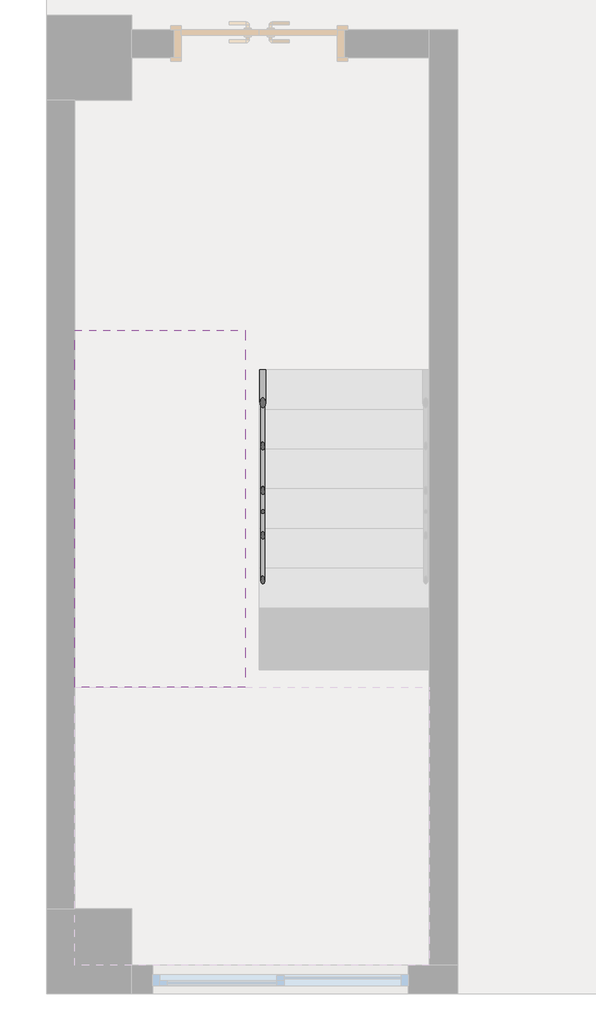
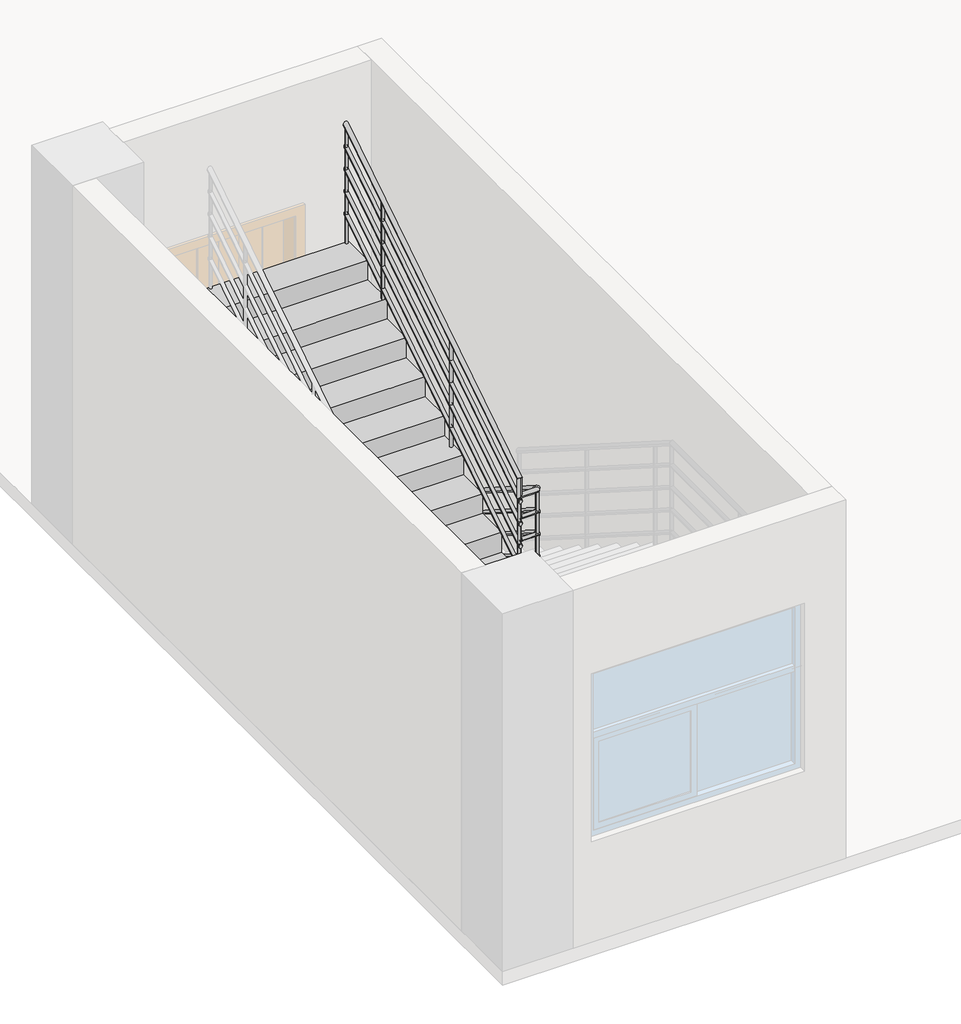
# One storey, part 3 of 4: 1 railing, 1 stair flight.
"""IFC4 building model written with IfcOpenShell, lengths in millimetres."""

from ifc_helpers import new_model, si_unit, point, frame, frame_2d, origin, place, context, project, spatial, circle_curve, ellipse_curve, trimmed, segment, composite_curve, outline, extrude, faceted_brep, element, save
from ifc_brep_helpers import plane_surface, cylinder_surface, advanced_brep

model = new_model("IFC4")

# Units and contexts
model_context = context("Model", 3, world=origin())
ifc_project = project(units=[si_unit("LENGTHUNIT", "METRE", prefix="MILLI")], contexts=[model_context])

# Site, building, storey
site = spatial("IfcSite", under=ifc_project)
building = spatial("IfcBuilding", under=site)
storey = spatial("IfcBuildingStorey", under=building, Name="标高 1", Elevation=0.0)

# Railing
placement = place(None, origin())
element("IfcRailing", 1, ObjectType="900mm 圆管", at=placement, inside=storey, context=model_context, shape_type="SolidModel", body=[
    advanced_brep(
    [(-11176.3675258, -4336.6725016, 1054.0870689), (-11136.3675258, -4336.6725016, 1054.0870689), (-11176.3675258, -6570.508408, 2472.395581), (-11136.3675258, -6604.2769206, 2493.8359064)],
    [
        (0, 1, ellipse_curve(frame((-11156.3675258, -4336.6725016, 1054.0870689), z_axis=(0.0, 1.0, 0.0), x_axis=(0.0, 0.0, -1.0)), 23.6907088, 20.0)),
        (1, 0, ellipse_curve(frame((-11156.3675258, -4336.6725016, 1054.0870689), z_axis=(0.0, 1.0, 0.0), x_axis=(0.0, 0.0, -1.0)), 23.6907088, 20.0)),
        (2, 3, ellipse_curve(frame((-11156.3675258, -6587.3926643, 2483.1157437), z_axis=(-0.7071067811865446, -0.5969486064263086, 0.3790149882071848), x_axis=(-0.7071067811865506, 0.596948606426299, -0.3790149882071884)), 28.2842712, 20.0)),
        (3, 2, ellipse_curve(frame((-11156.3675258, -6587.3926643, 2483.1157437), z_axis=(-0.7071067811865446, -0.5969486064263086, 0.3790149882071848), x_axis=(-0.7071067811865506, 0.596948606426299, -0.3790149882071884)), 28.2842712, 20.0)),
        (0, 2),
        (3, 1),
    ],
    [
        plane_surface(frame((-11156.3675258, -4336.6725016, 1077.7777778), z_axis=(0.0, 1.0, 0.0), x_axis=(0.0, 0.0, -1.0))),
        plane_surface(frame((-11156.3675258, -6576.6725016, 2500.0), z_axis=(-0.7071067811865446, -0.5969486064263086, 0.3790149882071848), x_axis=(0.7071067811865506, -0.5969486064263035, 0.37901498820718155))),
        cylinder_surface(frame((-11156.3675258, -4347.3926643, 1060.8935215), z_axis=(0.0, 0.8442128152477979, -0.536008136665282), x_axis=(1.0, 0.0, 0.0)), 20.0),
    ],
    [
        (0, [[1, 2]]),
        (1, [[3, 4]]),
        (2, [[-1, 5, -4, 6]]),
        (2, [[-2, -6, -3, -5]]),
    ],
),
    advanced_brep(
    [(-11183.9719449, -6582.0725016, 2480.0), (-11150.2034323, -6622.0725016, 2480.0), (-11307.1675258, -6582.0725016, 2480.0), (-11307.1675258, -6622.0725016, 2480.0)],
    [
        (0, 1, ellipse_curve(frame((-11167.0876886, -6602.0725016, 2480.0), z_axis=(0.7071067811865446, 0.5969486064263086, -0.3790149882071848), x_axis=(0.7071067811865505, -0.5969486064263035, 0.3790149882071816)), 28.2842712, 20.0)),
        (1, 0, ellipse_curve(frame((-11167.0876886, -6602.0725016, 2480.0), z_axis=(0.7071067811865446, 0.5969486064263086, -0.3790149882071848), x_axis=(0.7071067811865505, -0.5969486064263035, 0.3790149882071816)), 28.2842712, 20.0)),
        (2, 3, ellipse_curve(frame((-11307.1675258, -6602.0725016, 2480.0), z_axis=(-0.7071067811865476, 0.0, 0.7071067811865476), x_axis=(0.7071067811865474, 0.0, 0.7071067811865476)), 28.2842712, 20.0)),
        (3, 2, ellipse_curve(frame((-11307.1675258, -6602.0725016, 2480.0), z_axis=(-0.7071067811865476, 0.0, 0.7071067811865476), x_axis=(0.7071067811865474, 0.0, 0.7071067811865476)), 28.2842712, 20.0)),
        (0, 2),
        (3, 1),
    ],
    [
        plane_surface(frame((-11156.3675258, -6602.0725016, 2500.0), z_axis=(0.7071067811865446, 0.5969486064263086, -0.3790149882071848), x_axis=(0.7071067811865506, -0.5969486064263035, 0.37901498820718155))),
        plane_surface(frame((-11287.1675258, -6602.0725016, 2500.0), z_axis=(-0.7071067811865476, 0.0, 0.7071067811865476), x_axis=(0.7071067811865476, 0.0, 0.7071067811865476))),
        cylinder_surface(frame((-11156.3675258, -6602.0725016, 2480.0), z_axis=(1.0, 0.0, 0.0), x_axis=(0.0, -1.0, 0.0)), 20.0),
    ],
    [
        (0, [[1, 2]]),
        (1, [[3, 4]]),
        (2, [[-1, 5, -4, 6]]),
        (2, [[-2, -6, -3, -5]]),
    ],
),
    advanced_brep(
    [(-11307.1675258, -6582.0725016, 2480.0), (-11307.1675258, -6622.0725016, 2480.0), (-11307.1675258, -6582.0725016, 2626.9677887), (-11307.1675258, -6622.0725016, 2648.952381)],
    [
        (0, 1, ellipse_curve(frame((-11307.1675258, -6602.0725016, 2480.0), z_axis=(0.7071067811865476, 0.0, -0.7071067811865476), x_axis=(-0.7071067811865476, 0.0, -0.7071067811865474)), 28.2842712, 20.0)),
        (1, 0, ellipse_curve(frame((-11307.1675258, -6602.0725016, 2480.0), z_axis=(0.7071067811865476, 0.0, -0.7071067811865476), x_axis=(-0.7071067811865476, 0.0, -0.7071067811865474)), 28.2842712, 20.0)),
        (2, 3, ellipse_curve(frame((-11307.1675258, -6602.0725016, 2637.9600848), z_axis=(0.0, 0.4816595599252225, 0.8763584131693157), x_axis=(0.0, 0.876358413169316, -0.4816595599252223)), 22.8217128, 20.0)),
        (3, 2, ellipse_curve(frame((-11307.1675258, -6602.0725016, 2637.9600848), z_axis=(0.0, 0.4816595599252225, 0.8763584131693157), x_axis=(0.0, 0.876358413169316, -0.4816595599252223)), 22.8217128, 20.0)),
        (0, 2),
        (3, 1),
    ],
    [
        plane_surface(frame((-11307.1675258, -6602.0725016, 2480.0), z_axis=(0.7071067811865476, 0.0, -0.7071067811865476), x_axis=(0.7071067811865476, 0.0, 0.7071067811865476))),
        plane_surface(frame((-11307.1675258, -6602.0725016, 2637.9600848), z_axis=(0.0, 0.4816595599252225, 0.8763584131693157), x_axis=(1.0, 0.0, 0.0))),
        cylinder_surface(frame((-11307.1675258, -6602.0725016, 2480.0), z_axis=(0.0, 0.0, -1.0), x_axis=(0.0, -1.0, 0.0)), 20.0),
    ],
    [
        (0, [[1, 2]]),
        (1, [[3, 4]]),
        (2, [[-1, 5, -4, 6]]),
        (2, [[-2, -6, -3, -5]]),
    ],
),
    advanced_brep(
    [(-11287.1675258, -6602.0725016, 2637.9600848), (-11327.1675258, -6602.0725016, 2637.9600848), (-11287.1675258, -4056.6725016, 4254.0870689), (-11327.1675258, -4056.6725016, 4254.0870689)],
    [
        (0, 1, ellipse_curve(frame((-11307.1675258, -6602.0725016, 2637.9600848), z_axis=(0.0, -0.4816595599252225, -0.8763584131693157), x_axis=(0.0, -0.8763584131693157, 0.4816595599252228)), 22.8217128, 20.0)),
        (1, 0, ellipse_curve(frame((-11307.1675258, -6602.0725016, 2637.9600848), z_axis=(0.0, -0.4816595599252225, -0.8763584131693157), x_axis=(0.0, -0.8763584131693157, 0.4816595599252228)), 22.8217128, 20.0)),
        (2, 3, ellipse_curve(frame((-11307.1675258, -4056.6725016, 4254.0870689), z_axis=(0.0, 1.0, 0.0), x_axis=(0.0, 0.0, -1.0)), 23.6907088, 20.0)),
        (3, 2, ellipse_curve(frame((-11307.1675258, -4056.6725016, 4254.0870689), z_axis=(0.0, 1.0, 0.0), x_axis=(0.0, 0.0, -1.0)), 23.6907088, 20.0)),
        (0, 2),
        (3, 1),
    ],
    [
        plane_surface(frame((-11307.1675258, -6622.0725016, 2648.952381), z_axis=(0.0, -0.4816595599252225, -0.8763584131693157), x_axis=(1.0, 0.0, 0.0))),
        plane_surface(frame((-11307.1675258, -4056.6725016, 4277.7777778), z_axis=(0.0, 1.0, 0.0), x_axis=(0.0, 0.0, 1.0))),
        cylinder_surface(frame((-11307.1675258, -6611.3523389, 2632.0681246), z_axis=(0.0, -0.8442128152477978, -0.536008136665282), x_axis=(-1.0, 0.0, 0.0)), 20.0),
    ],
    [
        (0, [[1, 2]]),
        (1, [[3, 4]]),
        (2, [[-1, 5, -4, 6]]),
        (2, [[-2, -6, -3, -5]]),
    ],
),
    advanced_brep(
    [(-11141.3675258, -4336.6725016, 860.0097462), (-11171.3675258, -4336.6725016, 860.0097462), (-11141.3675258, -6581.0321514, 2285.0), (-11171.3675258, -6581.0321514, 2285.0), (-11141.3675258, -6587.0725016, 2285.0), (-11171.3675258, -6587.0725016, 2285.0)],
    [
        (0, 1, ellipse_curve(frame((-11156.3675258, -4336.6725016, 860.0097462), z_axis=(0.0, 1.0, 0.0), x_axis=(0.0, 0.0, -1.0)), 17.7680316, 15.0)),
        (1, 0, ellipse_curve(frame((-11156.3675258, -4336.6725016, 860.0097462), z_axis=(0.0, 1.0, 0.0), x_axis=(0.0, 0.0, -1.0)), 17.7680316, 15.0)),
        (0, 2),
        (2, 3, ellipse_curve(frame((-11156.3675258, -6581.0321514, 2285.0), z_axis=(0.0, 0.9602637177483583, -0.2790942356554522), x_axis=(0.0, -0.27909423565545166, -0.9602637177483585)), 15.6207089, 15.0)),
        (3, 1),
        (3, 2, ellipse_curve(frame((-11156.3675258, -6581.0321514, 2285.0), z_axis=(0.0, 0.9602637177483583, -0.2790942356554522), x_axis=(0.0, -0.27909423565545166, -0.9602637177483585)), 15.6207089, 15.0)),
        (4, 5, circle_curve(frame((-11156.3675258, -6587.0725016, 2285.0), z_axis=(0.0, -1.0, 0.0), x_axis=(-1.0, 0.0, 0.0)), 15.0)),
        (5, 4, circle_curve(frame((-11156.3675258, -6587.0725016, 2285.0), z_axis=(0.0, -1.0, 0.0), x_axis=(-1.0, 0.0, 0.0)), 15.0)),
        (2, 4),
        (5, 3),
    ],
    [
        plane_surface(frame((-11156.3675258, -4336.6725016, 877.7777778), z_axis=(0.0, 1.0, 0.0), x_axis=(0.0, 0.0, -1.0))),
        cylinder_surface(frame((-11156.3675258, -4344.7126237, 865.1145855), z_axis=(0.0, 0.8442128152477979, -0.536008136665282), x_axis=(-1.0, 0.0, 0.0)), 15.0),
        plane_surface(frame((-11156.3675258, -6587.0725016, 2300.0), z_axis=(0.0, -1.0, 0.0), x_axis=(0.0, 0.0, -1.0))),
        cylinder_surface(frame((-11156.3675258, -6576.6725016, 2285.0), z_axis=(0.0, 1.0, 0.0), x_axis=(-1.0, 0.0, 0.0)), 15.0),
    ],
    [
        (0, [[1, 2]]),
        (1, [[-1, 3, 4, 5]]),
        (1, [[-2, -5, 6, -3]]),
        (2, [[7, 8]]),
        (3, [[-4, 9, -8, 10]]),
        (3, [[-6, -10, -7, -9]]),
    ],
),
    advanced_brep(
    [(-11141.3675258, -6617.0725016, 2285.0), (-11141.3675258, -6587.0725016, 2285.0), (-11292.1675258, -6617.0725016, 2285.0), (-11292.1675258, -6587.0725016, 2285.0)],
    [
        (0, 1, circle_curve(frame((-11141.3675258, -6602.0725016, 2285.0), z_axis=(1.0, 0.0, 0.0), x_axis=(0.0, 1.0, 0.0)), 15.0)),
        (1, 0, circle_curve(frame((-11141.3675258, -6602.0725016, 2285.0), z_axis=(1.0, 0.0, 0.0), x_axis=(0.0, 1.0, 0.0)), 15.0)),
        (2, 3, circle_curve(frame((-11292.1675258, -6602.0725016, 2285.0), z_axis=(-1.0, 0.0, 0.0), x_axis=(0.0, 1.0, 0.0)), 15.0)),
        (3, 2, circle_curve(frame((-11292.1675258, -6602.0725016, 2285.0), z_axis=(-1.0, 0.0, 0.0), x_axis=(0.0, 1.0, 0.0)), 15.0)),
        (0, 2),
        (3, 1),
    ],
    [
        plane_surface(frame((-11141.3675258, -6602.0725016, 2300.0), z_axis=(1.0, 0.0, 0.0), x_axis=(0.0, -1.0, 0.0))),
        plane_surface(frame((-11292.1675258, -6602.0725016, 2300.0), z_axis=(-1.0, 0.0, 0.0), x_axis=(0.0, -1.0, 0.0))),
        cylinder_surface(frame((-11141.3675258, -6602.0725016, 2285.0), z_axis=(1.0, 0.0, 0.0), x_axis=(0.0, 1.0, 0.0)), 15.0),
    ],
    [
        (0, [[1, 2]]),
        (1, [[3, 4]]),
        (2, [[-1, 5, -4, 6]]),
        (2, [[-2, -6, -3, -5]]),
    ],
),
    advanced_brep(
    [(-11322.1675258, -6617.0725016, 2434.3589525), (-11292.1675258, -6617.0725016, 2434.3589525), (-11322.1675258, -4056.6725016, 4060.0097462), (-11292.1675258, -4056.6725016, 4060.0097462)],
    [
        (0, 1, ellipse_curve(frame((-11307.1675258, -6617.0725016, 2434.3589525), z_axis=(0.0, -1.0, 0.0), x_axis=(0.0, 0.0, -1.0)), 17.7680316, 15.0)),
        (1, 0, ellipse_curve(frame((-11307.1675258, -6617.0725016, 2434.3589525), z_axis=(0.0, -1.0, 0.0), x_axis=(0.0, 0.0, -1.0)), 17.7680316, 15.0)),
        (2, 3, ellipse_curve(frame((-11307.1675258, -4056.6725016, 4060.0097462), z_axis=(0.0, 1.0, 0.0), x_axis=(0.0, 0.0, -1.0)), 17.7680316, 15.0)),
        (3, 2, ellipse_curve(frame((-11307.1675258, -4056.6725016, 4060.0097462), z_axis=(0.0, 1.0, 0.0), x_axis=(0.0, 0.0, -1.0)), 17.7680316, 15.0)),
        (0, 2),
        (3, 1),
    ],
    [
        plane_surface(frame((-11307.1675258, -6617.0725016, 2452.1269841), z_axis=(0.0, -1.0, 0.0), x_axis=(0.0, 0.0, 1.0))),
        plane_surface(frame((-11307.1675258, -4056.6725016, 4077.7777778), z_axis=(0.0, 1.0, 0.0), x_axis=(0.0, 0.0, 1.0))),
        cylinder_surface(frame((-11307.1675258, -6609.0323796, 2439.4637919), z_axis=(0.0, -0.8442128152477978, -0.536008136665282), x_axis=(1.0, 0.0, 0.0)), 15.0),
    ],
    [
        (0, [[1, 2]]),
        (1, [[3, 4]]),
        (2, [[-1, 5, -4, 6]]),
        (2, [[-2, -6, -3, -5]]),
    ],
),
    advanced_brep(
    [(-11141.3675258, -4336.6725016, 660.0097462), (-11171.3675258, -4336.6725016, 660.0097462), (-11141.3675258, -6581.0321514, 2085.0), (-11171.3675258, -6581.0321514, 2085.0), (-11141.3675258, -6587.0725016, 2085.0), (-11171.3675258, -6587.0725016, 2085.0)],
    [
        (0, 1, ellipse_curve(frame((-11156.3675258, -4336.6725016, 660.0097462), z_axis=(0.0, 1.0, 0.0), x_axis=(0.0, 0.0, -1.0)), 17.7680316, 15.0)),
        (1, 0, ellipse_curve(frame((-11156.3675258, -4336.6725016, 660.0097462), z_axis=(0.0, 1.0, 0.0), x_axis=(0.0, 0.0, -1.0)), 17.7680316, 15.0)),
        (0, 2),
        (2, 3, ellipse_curve(frame((-11156.3675258, -6581.0321514, 2085.0), z_axis=(0.0, 0.9602637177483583, -0.2790942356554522), x_axis=(0.0, -0.27909423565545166, -0.9602637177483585)), 15.6207089, 15.0)),
        (3, 1),
        (3, 2, ellipse_curve(frame((-11156.3675258, -6581.0321514, 2085.0), z_axis=(0.0, 0.9602637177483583, -0.2790942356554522), x_axis=(0.0, -0.27909423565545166, -0.9602637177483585)), 15.6207089, 15.0)),
        (4, 5, circle_curve(frame((-11156.3675258, -6587.0725016, 2085.0), z_axis=(0.0, -1.0, 0.0), x_axis=(-1.0, 0.0, 0.0)), 15.0)),
        (5, 4, circle_curve(frame((-11156.3675258, -6587.0725016, 2085.0), z_axis=(0.0, -1.0, 0.0), x_axis=(-1.0, 0.0, 0.0)), 15.0)),
        (2, 4),
        (5, 3),
    ],
    [
        plane_surface(frame((-11156.3675258, -4336.6725016, 677.7777778), z_axis=(0.0, 1.0, 0.0), x_axis=(0.0, 0.0, -1.0))),
        cylinder_surface(frame((-11156.3675258, -4344.7126237, 665.1145855), z_axis=(0.0, 0.8442128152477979, -0.536008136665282), x_axis=(-1.0, 0.0, 0.0)), 15.0),
        plane_surface(frame((-11156.3675258, -6587.0725016, 2100.0), z_axis=(0.0, -1.0, 0.0), x_axis=(0.0, 0.0, -1.0))),
        cylinder_surface(frame((-11156.3675258, -6576.6725016, 2085.0), z_axis=(0.0, 1.0, 0.0), x_axis=(-1.0, 0.0, 0.0)), 15.0),
    ],
    [
        (0, [[1, 2]]),
        (1, [[-1, 3, 4, 5]]),
        (1, [[-2, -5, 6, -3]]),
        (2, [[7, 8]]),
        (3, [[-4, 9, -8, 10]]),
        (3, [[-6, -10, -7, -9]]),
    ],
),
    advanced_brep(
    [(-11141.3675258, -6617.0725016, 2085.0), (-11141.3675258, -6587.0725016, 2085.0), (-11292.1675258, -6617.0725016, 2085.0), (-11292.1675258, -6587.0725016, 2085.0)],
    [
        (0, 1, circle_curve(frame((-11141.3675258, -6602.0725016, 2085.0), z_axis=(1.0, 0.0, 0.0), x_axis=(0.0, 1.0, 0.0)), 15.0)),
        (1, 0, circle_curve(frame((-11141.3675258, -6602.0725016, 2085.0), z_axis=(1.0, 0.0, 0.0), x_axis=(0.0, 1.0, 0.0)), 15.0)),
        (2, 3, circle_curve(frame((-11292.1675258, -6602.0725016, 2085.0), z_axis=(-1.0, 0.0, 0.0), x_axis=(0.0, 1.0, 0.0)), 15.0)),
        (3, 2, circle_curve(frame((-11292.1675258, -6602.0725016, 2085.0), z_axis=(-1.0, 0.0, 0.0), x_axis=(0.0, 1.0, 0.0)), 15.0)),
        (0, 2),
        (3, 1),
    ],
    [
        plane_surface(frame((-11141.3675258, -6602.0725016, 2100.0), z_axis=(1.0, 0.0, 0.0), x_axis=(0.0, -1.0, 0.0))),
        plane_surface(frame((-11292.1675258, -6602.0725016, 2100.0), z_axis=(-1.0, 0.0, 0.0), x_axis=(0.0, -1.0, 0.0))),
        cylinder_surface(frame((-11141.3675258, -6602.0725016, 2085.0), z_axis=(1.0, 0.0, 0.0), x_axis=(0.0, 1.0, 0.0)), 15.0),
    ],
    [
        (0, [[1, 2]]),
        (1, [[3, 4]]),
        (2, [[-1, 5, -4, 6]]),
        (2, [[-2, -6, -3, -5]]),
    ],
),
    advanced_brep(
    [(-11322.1675258, -6617.0725016, 2234.3589525), (-11292.1675258, -6617.0725016, 2234.3589525), (-11322.1675258, -4056.6725016, 3860.0097462), (-11292.1675258, -4056.6725016, 3860.0097462)],
    [
        (0, 1, ellipse_curve(frame((-11307.1675258, -6617.0725016, 2234.3589525), z_axis=(0.0, -1.0, 0.0), x_axis=(0.0, 0.0, -1.0)), 17.7680316, 15.0)),
        (1, 0, ellipse_curve(frame((-11307.1675258, -6617.0725016, 2234.3589525), z_axis=(0.0, -1.0, 0.0), x_axis=(0.0, 0.0, -1.0)), 17.7680316, 15.0)),
        (2, 3, ellipse_curve(frame((-11307.1675258, -4056.6725016, 3860.0097462), z_axis=(0.0, 1.0, 0.0), x_axis=(0.0, 0.0, -1.0)), 17.7680316, 15.0)),
        (3, 2, ellipse_curve(frame((-11307.1675258, -4056.6725016, 3860.0097462), z_axis=(0.0, 1.0, 0.0), x_axis=(0.0, 0.0, -1.0)), 17.7680316, 15.0)),
        (0, 2),
        (3, 1),
    ],
    [
        plane_surface(frame((-11307.1675258, -6617.0725016, 2252.1269841), z_axis=(0.0, -1.0, 0.0), x_axis=(0.0, 0.0, 1.0))),
        plane_surface(frame((-11307.1675258, -4056.6725016, 3877.7777778), z_axis=(0.0, 1.0, 0.0), x_axis=(0.0, 0.0, 1.0))),
        cylinder_surface(frame((-11307.1675258, -6609.0323796, 2239.4637919), z_axis=(0.0, -0.8442128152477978, -0.536008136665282), x_axis=(1.0, 0.0, 0.0)), 15.0),
    ],
    [
        (0, [[1, 2]]),
        (1, [[3, 4]]),
        (2, [[-1, 5, -4, 6]]),
        (2, [[-2, -6, -3, -5]]),
    ],
),
    advanced_brep(
    [(-11141.3675258, -4336.6725016, 460.0097462), (-11171.3675258, -4336.6725016, 460.0097462), (-11141.3675258, -6581.0321514, 1885.0), (-11171.3675258, -6581.0321514, 1885.0), (-11141.3675258, -6587.0725016, 1885.0), (-11171.3675258, -6587.0725016, 1885.0)],
    [
        (0, 1, ellipse_curve(frame((-11156.3675258, -4336.6725016, 460.0097462), z_axis=(0.0, 1.0, 0.0), x_axis=(0.0, 0.0, -1.0)), 17.7680316, 15.0)),
        (1, 0, ellipse_curve(frame((-11156.3675258, -4336.6725016, 460.0097462), z_axis=(0.0, 1.0, 0.0), x_axis=(0.0, 0.0, -1.0)), 17.7680316, 15.0)),
        (0, 2),
        (2, 3, ellipse_curve(frame((-11156.3675258, -6581.0321514, 1885.0), z_axis=(0.0, 0.9602637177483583, -0.2790942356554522), x_axis=(0.0, -0.27909423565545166, -0.9602637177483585)), 15.6207089, 15.0)),
        (3, 1),
        (3, 2, ellipse_curve(frame((-11156.3675258, -6581.0321514, 1885.0), z_axis=(0.0, 0.9602637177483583, -0.2790942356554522), x_axis=(0.0, -0.27909423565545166, -0.9602637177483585)), 15.6207089, 15.0)),
        (4, 5, circle_curve(frame((-11156.3675258, -6587.0725016, 1885.0), z_axis=(0.0, -1.0, 0.0), x_axis=(-1.0, 0.0, 0.0)), 15.0)),
        (5, 4, circle_curve(frame((-11156.3675258, -6587.0725016, 1885.0), z_axis=(0.0, -1.0, 0.0), x_axis=(-1.0, 0.0, 0.0)), 15.0)),
        (2, 4),
        (5, 3),
    ],
    [
        plane_surface(frame((-11156.3675258, -4336.6725016, 477.7777778), z_axis=(0.0, 1.0, 0.0), x_axis=(0.0, 0.0, -1.0))),
        cylinder_surface(frame((-11156.3675258, -4344.7126237, 465.1145855), z_axis=(0.0, 0.8442128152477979, -0.536008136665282), x_axis=(-1.0, 0.0, 0.0)), 15.0),
        plane_surface(frame((-11156.3675258, -6587.0725016, 1900.0), z_axis=(0.0, -1.0, 0.0), x_axis=(0.0, 0.0, -1.0))),
        cylinder_surface(frame((-11156.3675258, -6576.6725016, 1885.0), z_axis=(0.0, 1.0, 0.0), x_axis=(-1.0, 0.0, 0.0)), 15.0),
    ],
    [
        (0, [[1, 2]]),
        (1, [[-1, 3, 4, 5]]),
        (1, [[-2, -5, 6, -3]]),
        (2, [[7, 8]]),
        (3, [[-4, 9, -8, 10]]),
        (3, [[-6, -10, -7, -9]]),
    ],
),
    advanced_brep(
    [(-11141.3675258, -6617.0725016, 1885.0), (-11141.3675258, -6587.0725016, 1885.0), (-11292.1675258, -6617.0725016, 1885.0), (-11292.1675258, -6587.0725016, 1885.0)],
    [
        (0, 1, circle_curve(frame((-11141.3675258, -6602.0725016, 1885.0), z_axis=(1.0, 0.0, 0.0), x_axis=(0.0, 1.0, 0.0)), 15.0)),
        (1, 0, circle_curve(frame((-11141.3675258, -6602.0725016, 1885.0), z_axis=(1.0, 0.0, 0.0), x_axis=(0.0, 1.0, 0.0)), 15.0)),
        (2, 3, circle_curve(frame((-11292.1675258, -6602.0725016, 1885.0), z_axis=(-1.0, 0.0, 0.0), x_axis=(0.0, 1.0, 0.0)), 15.0)),
        (3, 2, circle_curve(frame((-11292.1675258, -6602.0725016, 1885.0), z_axis=(-1.0, 0.0, 0.0), x_axis=(0.0, 1.0, 0.0)), 15.0)),
        (0, 2),
        (3, 1),
    ],
    [
        plane_surface(frame((-11141.3675258, -6602.0725016, 1900.0), z_axis=(1.0, 0.0, 0.0), x_axis=(0.0, -1.0, 0.0))),
        plane_surface(frame((-11292.1675258, -6602.0725016, 1900.0), z_axis=(-1.0, 0.0, 0.0), x_axis=(0.0, -1.0, 0.0))),
        cylinder_surface(frame((-11141.3675258, -6602.0725016, 1885.0), z_axis=(1.0, 0.0, 0.0), x_axis=(0.0, 1.0, 0.0)), 15.0),
    ],
    [
        (0, [[1, 2]]),
        (1, [[3, 4]]),
        (2, [[-1, 5, -4, 6]]),
        (2, [[-2, -6, -3, -5]]),
    ],
),
    advanced_brep(
    [(-11322.1675258, -6617.0725016, 2034.3589525), (-11292.1675258, -6617.0725016, 2034.3589525), (-11322.1675258, -4056.6725016, 3660.0097462), (-11292.1675258, -4056.6725016, 3660.0097462)],
    [
        (0, 1, ellipse_curve(frame((-11307.1675258, -6617.0725016, 2034.3589525), z_axis=(0.0, -1.0, 0.0), x_axis=(0.0, 0.0, -1.0)), 17.7680316, 15.0)),
        (1, 0, ellipse_curve(frame((-11307.1675258, -6617.0725016, 2034.3589525), z_axis=(0.0, -1.0, 0.0), x_axis=(0.0, 0.0, -1.0)), 17.7680316, 15.0)),
        (2, 3, ellipse_curve(frame((-11307.1675258, -4056.6725016, 3660.0097462), z_axis=(0.0, 1.0, 0.0), x_axis=(0.0, 0.0, -1.0)), 17.7680316, 15.0)),
        (3, 2, ellipse_curve(frame((-11307.1675258, -4056.6725016, 3660.0097462), z_axis=(0.0, 1.0, 0.0), x_axis=(0.0, 0.0, -1.0)), 17.7680316, 15.0)),
        (0, 2),
        (3, 1),
    ],
    [
        plane_surface(frame((-11307.1675258, -6617.0725016, 2052.1269841), z_axis=(0.0, -1.0, 0.0), x_axis=(0.0, 0.0, 1.0))),
        plane_surface(frame((-11307.1675258, -4056.6725016, 3677.7777778), z_axis=(0.0, 1.0, 0.0), x_axis=(0.0, 0.0, 1.0))),
        cylinder_surface(frame((-11307.1675258, -6609.0323796, 2039.4637919), z_axis=(0.0, -0.8442128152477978, -0.536008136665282), x_axis=(1.0, 0.0, 0.0)), 15.0),
    ],
    [
        (0, [[1, 2]]),
        (1, [[3, 4]]),
        (2, [[-1, 5, -4, 6]]),
        (2, [[-2, -6, -3, -5]]),
    ],
),
    advanced_brep(
    [(-11141.3675258, -4336.6725016, 260.0097462), (-11171.3675258, -4336.6725016, 260.0097462), (-11141.3675258, -6581.0321514, 1685.0), (-11171.3675258, -6581.0321514, 1685.0), (-11141.3675258, -6587.0725016, 1685.0), (-11171.3675258, -6587.0725016, 1685.0)],
    [
        (0, 1, ellipse_curve(frame((-11156.3675258, -4336.6725016, 260.0097462), z_axis=(0.0, 1.0, 0.0), x_axis=(0.0, 0.0, -1.0)), 17.7680316, 15.0)),
        (1, 0, ellipse_curve(frame((-11156.3675258, -4336.6725016, 260.0097462), z_axis=(0.0, 1.0, 0.0), x_axis=(0.0, 0.0, -1.0)), 17.7680316, 15.0)),
        (0, 2),
        (2, 3, ellipse_curve(frame((-11156.3675258, -6581.0321514, 1685.0), z_axis=(0.0, 0.9602637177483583, -0.2790942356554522), x_axis=(0.0, -0.27909423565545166, -0.9602637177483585)), 15.6207089, 15.0)),
        (3, 1),
        (3, 2, ellipse_curve(frame((-11156.3675258, -6581.0321514, 1685.0), z_axis=(0.0, 0.9602637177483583, -0.2790942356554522), x_axis=(0.0, -0.27909423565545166, -0.9602637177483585)), 15.6207089, 15.0)),
        (4, 5, circle_curve(frame((-11156.3675258, -6587.0725016, 1685.0), z_axis=(0.0, -1.0, 0.0), x_axis=(-1.0, 0.0, 0.0)), 15.0)),
        (5, 4, circle_curve(frame((-11156.3675258, -6587.0725016, 1685.0), z_axis=(0.0, -1.0, 0.0), x_axis=(-1.0, 0.0, 0.0)), 15.0)),
        (2, 4),
        (5, 3),
    ],
    [
        plane_surface(frame((-11156.3675258, -4336.6725016, 277.7777778), z_axis=(0.0, 1.0, 0.0), x_axis=(0.0, 0.0, -1.0))),
        cylinder_surface(frame((-11156.3675258, -4344.7126237, 265.1145855), z_axis=(0.0, 0.8442128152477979, -0.536008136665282), x_axis=(-1.0, 0.0, 0.0)), 15.0),
        plane_surface(frame((-11156.3675258, -6587.0725016, 1700.0), z_axis=(0.0, -1.0, 0.0), x_axis=(0.0, 0.0, -1.0))),
        cylinder_surface(frame((-11156.3675258, -6576.6725016, 1685.0), z_axis=(0.0, 1.0, 0.0), x_axis=(-1.0, 0.0, 0.0)), 15.0),
    ],
    [
        (0, [[1, 2]]),
        (1, [[-1, 3, 4, 5]]),
        (1, [[-2, -5, 6, -3]]),
        (2, [[7, 8]]),
        (3, [[-4, 9, -8, 10]]),
        (3, [[-6, -10, -7, -9]]),
    ],
),
    advanced_brep(
    [(-11141.3675258, -6617.0725016, 1685.0), (-11141.3675258, -6587.0725016, 1685.0), (-11292.1675258, -6617.0725016, 1685.0), (-11292.1675258, -6587.0725016, 1685.0)],
    [
        (0, 1, circle_curve(frame((-11141.3675258, -6602.0725016, 1685.0), z_axis=(1.0, 0.0, 0.0), x_axis=(0.0, 1.0, 0.0)), 15.0)),
        (1, 0, circle_curve(frame((-11141.3675258, -6602.0725016, 1685.0), z_axis=(1.0, 0.0, 0.0), x_axis=(0.0, 1.0, 0.0)), 15.0)),
        (2, 3, circle_curve(frame((-11292.1675258, -6602.0725016, 1685.0), z_axis=(-1.0, 0.0, 0.0), x_axis=(0.0, 1.0, 0.0)), 15.0)),
        (3, 2, circle_curve(frame((-11292.1675258, -6602.0725016, 1685.0), z_axis=(-1.0, 0.0, 0.0), x_axis=(0.0, 1.0, 0.0)), 15.0)),
        (0, 2),
        (3, 1),
    ],
    [
        plane_surface(frame((-11141.3675258, -6602.0725016, 1700.0), z_axis=(1.0, 0.0, 0.0), x_axis=(0.0, -1.0, 0.0))),
        plane_surface(frame((-11292.1675258, -6602.0725016, 1700.0), z_axis=(-1.0, 0.0, 0.0), x_axis=(0.0, -1.0, 0.0))),
        cylinder_surface(frame((-11141.3675258, -6602.0725016, 1685.0), z_axis=(1.0, 0.0, 0.0), x_axis=(0.0, 1.0, 0.0)), 15.0),
    ],
    [
        (0, [[1, 2]]),
        (1, [[3, 4]]),
        (2, [[-1, 5, -4, 6]]),
        (2, [[-2, -6, -3, -5]]),
    ],
),
    advanced_brep(
    [(-11322.1675258, -6617.0725016, 1834.3589525), (-11292.1675258, -6617.0725016, 1834.3589525), (-11322.1675258, -4056.6725016, 3460.0097462), (-11292.1675258, -4056.6725016, 3460.0097462)],
    [
        (0, 1, ellipse_curve(frame((-11307.1675258, -6617.0725016, 1834.3589525), z_axis=(0.0, -1.0, 0.0), x_axis=(0.0, 0.0, -1.0)), 17.7680316, 15.0)),
        (1, 0, ellipse_curve(frame((-11307.1675258, -6617.0725016, 1834.3589525), z_axis=(0.0, -1.0, 0.0), x_axis=(0.0, 0.0, -1.0)), 17.7680316, 15.0)),
        (2, 3, ellipse_curve(frame((-11307.1675258, -4056.6725016, 3460.0097462), z_axis=(0.0, 1.0, 0.0), x_axis=(0.0, 0.0, -1.0)), 17.7680316, 15.0)),
        (3, 2, ellipse_curve(frame((-11307.1675258, -4056.6725016, 3460.0097462), z_axis=(0.0, 1.0, 0.0), x_axis=(0.0, 0.0, -1.0)), 17.7680316, 15.0)),
        (0, 2),
        (3, 1),
    ],
    [
        plane_surface(frame((-11307.1675258, -6617.0725016, 1852.1269841), z_axis=(0.0, -1.0, 0.0), x_axis=(0.0, 0.0, 1.0))),
        plane_surface(frame((-11307.1675258, -4056.6725016, 3477.7777778), z_axis=(0.0, 1.0, 0.0), x_axis=(0.0, 0.0, 1.0))),
        cylinder_surface(frame((-11307.1675258, -6609.0323796, 1839.4637919), z_axis=(0.0, -0.8442128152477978, -0.536008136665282), x_axis=(1.0, 0.0, 0.0)), 15.0),
    ],
    [
        (0, [[1, 2]]),
        (1, [[3, 4]]),
        (2, [[-1, 5, -4, 6]]),
        (2, [[-2, -6, -3, -5]]),
    ],
),
    advanced_brep(
    [(-11294.6675258, -4602.0725016, 3884.1106458), (-11294.6675258, -4602.0725016, 3022.2222222), (-11319.6675258, -4602.0725016, 3022.2222222), (-11319.6675258, -4602.0725016, 3884.1106458)],
    [
        (0, 1),
        (1, 2, circle_curve(frame((-11307.1675258, -4602.0725016, 3022.2222222), z_axis=(0.0, 0.0, 1.0), x_axis=(-1.0, 0.0, 0.0)), 12.5)),
        (2, 3),
        (3, 0, ellipse_curve(frame((-11307.1675258, -4602.0725016, 3884.1106458), z_axis=(0.0, 0.5360081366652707, -0.844212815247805), x_axis=(0.0, 0.8442128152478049, 0.5360081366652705)), 14.806693, 12.5)),
        (0, 3, ellipse_curve(frame((-11307.1675258, -4602.0725016, 3884.1106458), z_axis=(0.0, 0.5360081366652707, -0.844212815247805), x_axis=(0.0, 0.8442128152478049, 0.5360081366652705)), 14.806693, 12.5)),
        (2, 1, circle_curve(frame((-11307.1675258, -4602.0725016, 3022.2222222), z_axis=(0.0, 0.0, 1.0), x_axis=(-1.0, 0.0, 0.0)), 12.5)),
    ],
    [
        cylinder_surface(frame((-11307.1675258, -4602.0725016, 2922.2222222), z_axis=(0.0, 0.0, 1.0), x_axis=(-1.0, 0.0, 0.0)), 12.5),
        plane_surface(frame((-11332.1675258, -4577.0725016, 3899.9836617), z_axis=(0.0, -0.5360081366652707, 0.844212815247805), x_axis=(1.0, 0.0, 0.0))),
        plane_surface(frame((-11332.1675258, -4627.0725016, 3022.2222222), z_axis=(0.0, 0.0, -1.0), x_axis=(1.0, 0.0, 0.0))),
    ],
    [
        (0, [[1, 2, 3, 4]]),
        (0, [[-1, 5, -3, 6]]),
        (1, [[-4, -5]]),
        (2, [[-2, -6]]),
    ],
),
    advanced_brep(
    [(-11294.6675258, -5602.0725016, 3249.1900109), (-11294.6675258, -5602.0725016, 2311.1111111), (-11319.6675258, -5602.0725016, 2311.1111111), (-11319.6675258, -5602.0725016, 3249.1900109)],
    [
        (0, 1),
        (1, 2, circle_curve(frame((-11307.1675258, -5602.0725016, 2311.1111111), z_axis=(0.0, 0.0, 1.0), x_axis=(-1.0, 0.0, 0.0)), 12.5)),
        (2, 3),
        (3, 0, ellipse_curve(frame((-11307.1675258, -5602.0725016, 3249.1900109), z_axis=(0.0, 0.5360081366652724, -0.844212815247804), x_axis=(0.0, 0.844212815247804, 0.5360081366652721)), 14.806693, 12.5)),
        (0, 3, ellipse_curve(frame((-11307.1675258, -5602.0725016, 3249.1900109), z_axis=(0.0, 0.5360081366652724, -0.844212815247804), x_axis=(0.0, 0.844212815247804, 0.5360081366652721)), 14.806693, 12.5)),
        (2, 1, circle_curve(frame((-11307.1675258, -5602.0725016, 2311.1111111), z_axis=(0.0, 0.0, 1.0), x_axis=(-1.0, 0.0, 0.0)), 12.5)),
    ],
    [
        cylinder_surface(frame((-11307.1675258, -5602.0725016, 2211.1111111), z_axis=(0.0, 0.0, 1.0), x_axis=(-1.0, 0.0, 0.0)), 12.5),
        plane_surface(frame((-11332.1675258, -5577.0725016, 3265.0630268), z_axis=(0.0, -0.5360081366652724, 0.844212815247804), x_axis=(1.0, 0.0, 0.0))),
        plane_surface(frame((-11332.1675258, -5627.0725016, 2311.1111111), z_axis=(0.0, 0.0, -1.0), x_axis=(1.0, 0.0, 0.0))),
    ],
    [
        (0, [[1, 2, 3, 4]]),
        (0, [[-1, 5, -3, 6]]),
        (1, [[-4, -5]]),
        (2, [[-2, -6]]),
    ],
),
    advanced_brep(
    [(-11168.8675258, -6336.6725016, 2300.23763), (-11168.8675258, -6336.6725016, 1422.2222222), (-11143.8675258, -6336.6725016, 1422.2222222), (-11143.8675258, -6336.6725016, 2300.23763)],
    [
        (0, 1),
        (1, 2, circle_curve(frame((-11156.3675258, -6336.6725016, 1422.2222222), z_axis=(0.0, 0.0, 1.0), x_axis=(1.0, 0.0, 0.0)), 12.5)),
        (2, 3),
        (3, 0, ellipse_curve(frame((-11156.3675258, -6336.6725016, 2300.23763), z_axis=(0.0, -0.5360081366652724, -0.844212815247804), x_axis=(0.0, -0.844212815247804, 0.5360081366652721)), 14.806693, 12.5)),
        (0, 3, ellipse_curve(frame((-11156.3675258, -6336.6725016, 2300.23763), z_axis=(0.0, -0.5360081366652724, -0.844212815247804), x_axis=(0.0, -0.844212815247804, 0.5360081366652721)), 14.806693, 12.5)),
        (2, 1, circle_curve(frame((-11156.3675258, -6336.6725016, 1422.2222222), z_axis=(0.0, 0.0, 1.0), x_axis=(1.0, 0.0, 0.0)), 12.5)),
    ],
    [
        cylinder_surface(frame((-11156.3675258, -6336.6725016, 1322.2222222), z_axis=(0.0, 0.0, 1.0), x_axis=(1.0, 0.0, 0.0)), 12.5),
        plane_surface(frame((-11131.3675258, -6361.6725016, 2316.1106458), z_axis=(0.0, 0.5360081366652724, 0.844212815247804), x_axis=(-1.0, 0.0, 0.0))),
        plane_surface(frame((-11131.3675258, -6311.6725016, 1422.2222222), z_axis=(0.0, 0.0, -1.0), x_axis=(-1.0, 0.0, 0.0))),
    ],
    [
        (0, [[1, 2, 3, 4]]),
        (0, [[-1, 5, -3, 6]]),
        (1, [[-4, -5]]),
        (2, [[-2, -6]]),
    ],
),
    advanced_brep(
    [(-11168.8675258, -5336.6725016, 1665.316995), (-11168.8675258, -5336.6725016, 711.1111111), (-11143.8675258, -5336.6725016, 711.1111111), (-11143.8675258, -5336.6725016, 1665.316995)],
    [
        (0, 1),
        (1, 2, circle_curve(frame((-11156.3675258, -5336.6725016, 711.1111111), z_axis=(0.0, 0.0, 1.0), x_axis=(1.0, 0.0, 0.0)), 12.5)),
        (2, 3),
        (3, 0, ellipse_curve(frame((-11156.3675258, -5336.6725016, 1665.316995), z_axis=(0.0, -0.5360081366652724, -0.844212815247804), x_axis=(0.0, -0.844212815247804, 0.5360081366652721)), 14.806693, 12.5)),
        (0, 3, ellipse_curve(frame((-11156.3675258, -5336.6725016, 1665.316995), z_axis=(0.0, -0.5360081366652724, -0.844212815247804), x_axis=(0.0, -0.844212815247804, 0.5360081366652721)), 14.806693, 12.5)),
        (2, 1, circle_curve(frame((-11156.3675258, -5336.6725016, 711.1111111), z_axis=(0.0, 0.0, 1.0), x_axis=(1.0, 0.0, 0.0)), 12.5)),
    ],
    [
        cylinder_surface(frame((-11156.3675258, -5336.6725016, 611.1111111), z_axis=(0.0, 0.0, 1.0), x_axis=(1.0, 0.0, 0.0)), 12.5),
        plane_surface(frame((-11131.3675258, -5361.6725016, 1681.1900109), z_axis=(0.0, 0.5360081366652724, 0.844212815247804), x_axis=(-1.0, 0.0, 0.0))),
        plane_surface(frame((-11131.3675258, -5311.6725016, 711.1111111), z_axis=(0.0, 0.0, -1.0), x_axis=(-1.0, 0.0, 0.0))),
    ],
    [
        (0, [[1, 2, 3, 4]]),
        (0, [[-1, 5, -3, 6]]),
        (1, [[-4, -5]]),
        (2, [[-2, -6]]),
    ],
),
    extrude(outline(composite_curve([segment(trimmed(circle_curve(frame_2d((-11307.1675258, -6602.0725016)), 12.5), [point((-11307.1675258, -6614.5725016))], [point((-11307.1675258, -6589.5725016))], False, "CARTESIAN"), True, "CONTINUOUS"), segment(trimmed(circle_curve(frame_2d((-11307.1675258, -6602.0725016)), 12.5), [point((-11307.1675258, -6589.5725016))], [point((-11307.1675258, -6614.5725016))], False, "CARTESIAN"), True, "CONTINUOUS")], self_intersect=False)), frame((0.0, 0.0, 1600.0), z_axis=(0.0, 0.0, 1.0), x_axis=(1.0, 0.0, 0.0)), (0.0, 0.0, 1.0), 860.0),
    advanced_brep(
    [(-11168.8675258, -6602.0725016, 2468.7455665), (-11168.8675258, -6602.0725016, 1600.0), (-11143.8675258, -6602.0725016, 1600.0), (-11143.8675258, -6602.0725016, 2468.7455665)],
    [
        (0, 1),
        (1, 2, circle_curve(frame((-11156.3675258, -6602.0725016, 1600.0), z_axis=(0.0, 0.0, 1.0), x_axis=(1.0, 0.0, 0.0)), 12.5)),
        (2, 3),
        (3, 0, ellipse_curve(frame((-11156.3675258, -6602.0725016, 2468.7455665), z_axis=(0.0, -0.5360081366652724, -0.844212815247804), x_axis=(0.0, -0.844212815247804, 0.5360081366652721)), 14.806693, 12.5)),
        (0, 3, ellipse_curve(frame((-11156.3675258, -6602.0725016, 2468.7455665), z_axis=(0.0, -0.5360081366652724, -0.844212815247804), x_axis=(0.0, -0.844212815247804, 0.5360081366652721)), 14.806693, 12.5)),
        (2, 1, circle_curve(frame((-11156.3675258, -6602.0725016, 1600.0), z_axis=(0.0, 0.0, 1.0), x_axis=(1.0, 0.0, 0.0)), 12.5)),
    ],
    [
        cylinder_surface(frame((-11156.3675258, -6602.0725016, 1500.0), z_axis=(0.0, 0.0, 1.0), x_axis=(1.0, 0.0, 0.0)), 12.5),
        plane_surface(frame((-11131.3675258, -6627.0725016, 2484.6185823), z_axis=(0.0, 0.5360081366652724, 0.844212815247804), x_axis=(-1.0, 0.0, 0.0))),
        plane_surface(frame((-11131.3675258, -6577.0725016, 1600.0), z_axis=(0.0, 0.0, -1.0), x_axis=(-1.0, 0.0, 0.0))),
    ],
    [
        (0, [[1, 2, 3, 4]]),
        (0, [[-1, 5, -3, 6]]),
        (1, [[-4, -5]]),
        (2, [[-2, -6]]),
    ],
),
    advanced_brep(
    [(-11294.6675258, -4069.1725016, 4222.4598522), (-11294.6675258, -4069.1725016, 3200.0), (-11319.6675258, -4069.1725016, 3200.0), (-11319.6675258, -4069.1725016, 4222.4598522)],
    [
        (0, 1),
        (1, 2, circle_curve(frame((-11307.1675258, -4069.1725016, 3200.0), z_axis=(0.0, 0.0, 1.0), x_axis=(-1.0, 0.0, 0.0)), 12.5)),
        (2, 3),
        (3, 0, ellipse_curve(frame((-11307.1675258, -4069.1725016, 4222.4598522), z_axis=(0.0, 0.5360081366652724, -0.844212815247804), x_axis=(0.0, 0.844212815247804, 0.5360081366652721)), 14.806693, 12.5)),
        (0, 3, ellipse_curve(frame((-11307.1675258, -4069.1725016, 4222.4598522), z_axis=(0.0, 0.5360081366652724, -0.844212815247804), x_axis=(0.0, 0.844212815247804, 0.5360081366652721)), 14.806693, 12.5)),
        (2, 1, circle_curve(frame((-11307.1675258, -4069.1725016, 3200.0), z_axis=(0.0, 0.0, 1.0), x_axis=(-1.0, 0.0, 0.0)), 12.5)),
    ],
    [
        cylinder_surface(frame((-11307.1675258, -4069.1725016, 3100.0), z_axis=(0.0, 0.0, 1.0), x_axis=(-1.0, 0.0, 0.0)), 12.5),
        plane_surface(frame((-11332.1675258, -4044.1725016, 4238.332868), z_axis=(0.0, -0.5360081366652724, 0.844212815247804), x_axis=(1.0, 0.0, 0.0))),
        plane_surface(frame((-11332.1675258, -4094.1725016, 3200.0), z_axis=(0.0, 0.0, -1.0), x_axis=(1.0, 0.0, 0.0))),
    ],
    [
        (0, [[1, 2, 3, 4]]),
        (0, [[-1, 5, -3, 6]]),
        (1, [[-4, -5]]),
        (2, [[-2, -6]]),
    ],
),
    advanced_brep(
    [(-11168.8675258, -4349.1725016, 1038.332868), (-11168.8675258, -4349.1725016, 177.7777778), (-11143.8675258, -4349.1725016, 177.7777778), (-11143.8675258, -4349.1725016, 1038.332868)],
    [
        (0, 1),
        (1, 2, circle_curve(frame((-11156.3675258, -4349.1725016, 177.7777778), z_axis=(0.0, 0.0, 1.0), x_axis=(1.0, 0.0, 0.0)), 12.5)),
        (2, 3),
        (3, 0, ellipse_curve(frame((-11156.3675258, -4349.1725016, 1038.332868), z_axis=(0.0, -0.5360081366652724, -0.844212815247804), x_axis=(0.0, -0.844212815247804, 0.5360081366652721)), 14.806693, 12.5)),
        (0, 3, ellipse_curve(frame((-11156.3675258, -4349.1725016, 1038.332868), z_axis=(0.0, -0.5360081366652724, -0.844212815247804), x_axis=(0.0, -0.844212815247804, 0.5360081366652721)), 14.806693, 12.5)),
        (2, 1, circle_curve(frame((-11156.3675258, -4349.1725016, 177.7777778), z_axis=(0.0, 0.0, 1.0), x_axis=(1.0, 0.0, 0.0)), 12.5)),
    ],
    [
        cylinder_surface(frame((-11156.3675258, -4349.1725016, 77.7777778), z_axis=(0.0, 0.0, 1.0), x_axis=(1.0, 0.0, 0.0)), 12.5),
        plane_surface(frame((-11131.3675258, -4374.1725016, 1054.2058839), z_axis=(0.0, 0.5360081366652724, 0.844212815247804), x_axis=(-1.0, 0.0, 0.0))),
        plane_surface(frame((-11131.3675258, -4324.1725016, 177.7777778), z_axis=(0.0, 0.0, -1.0), x_axis=(-1.0, 0.0, 0.0))),
    ],
    [
        (0, [[1, 2, 3, 4]]),
        (0, [[-1, 5, -3, 6]]),
        (1, [[-4, -5]]),
        (2, [[-2, -6]]),
    ],
),
])

# Stair flight
element("IfcStairFlight", 2, ObjectType="150", at=placement, inside=storey, context=model_context, shape_type="Brep", body=[
    faceted_brep([(-12481.7675258, -6296.6725016, 1777.7777778), (-12481.7675258, -6576.6725016, 1777.7777778), (-11281.7675258, -6576.6725016, 1777.7777778), (-11281.7675258, -6296.6725016, 1777.7777778), (-12481.7675258, -6296.6725016, 1635.6335248), (-12481.7675258, -6576.6725016, 1457.855747), (-12481.7675258, -6576.6725016, 1600.0), (-11281.7675258, -6576.6725016, 1457.855747), (-11281.7675258, -6296.6725016, 1635.6335248), (-12481.7675258, -6016.6725016, 1955.5555556), (-12481.7675258, -6296.6725016, 1955.5555556), (-11281.7675258, -6296.6725016, 1955.5555556), (-11281.7675258, -6016.6725016, 1955.5555556), (-12481.7675258, -6016.6725016, 1813.4113026), (-11281.7675258, -6016.6725016, 1813.4113026), (-12481.7675258, -5736.6725016, 2133.3333333), (-12481.7675258, -6016.6725016, 2133.3333333), (-11281.7675258, -6016.6725016, 2133.3333333), (-11281.7675258, -5736.6725016, 2133.3333333), (-12481.7675258, -5736.6725016, 1991.1890803), (-11281.7675258, -5736.6725016, 1991.1890803), (-12481.7675258, -5456.6725016, 2311.1111111), (-12481.7675258, -5736.6725016, 2311.1111111), (-11281.7675258, -5736.6725016, 2311.1111111), (-11281.7675258, -5456.6725016, 2311.1111111), (-12481.7675258, -5456.6725016, 2168.9668581), (-11281.7675258, -5456.6725016, 2168.9668581), (-12481.7675258, -5176.6725016, 2488.8888889), (-12481.7675258, -5456.6725016, 2488.8888889), (-11281.7675258, -5456.6725016, 2488.8888889), (-11281.7675258, -5176.6725016, 2488.8888889), (-12481.7675258, -5176.6725016, 2346.7446359), (-11281.7675258, -5176.6725016, 2346.7446359), (-12481.7675258, -4896.6725016, 2666.6666667), (-12481.7675258, -5176.6725016, 2666.6666667), (-11281.7675258, -5176.6725016, 2666.6666667), (-11281.7675258, -4896.6725016, 2666.6666667), (-12481.7675258, -4896.6725016, 2524.5224137), (-11281.7675258, -4896.6725016, 2524.5224137), (-12481.7675258, -4616.6725016, 2844.4444444), (-12481.7675258, -4896.6725016, 2844.4444444), (-11281.7675258, -4896.6725016, 2844.4444444), (-11281.7675258, -4616.6725016, 2844.4444444), (-12481.7675258, -4616.6725016, 2702.3001914), (-11281.7675258, -4616.6725016, 2702.3001914), (-12481.7675258, -4336.6725016, 3022.2222222), (-12481.7675258, -4616.6725016, 3022.2222222), (-11281.7675258, -4616.6725016, 3022.2222222), (-11281.7675258, -4336.6725016, 3022.2222222), (-12481.7675258, -4336.6725016, 2880.0779692), (-11281.7675258, -4336.6725016, 2880.0779692), (-12481.7675258, -4056.6725016, 3057.855747), (-11281.7675258, -4056.6725016, 3057.855747), (-12481.7675258, -4056.6725016, 3200.0), (-12481.7675258, -4336.6725016, 3200.0), (-11281.7675258, -4336.6725016, 3200.0), (-11281.7675258, -4056.6725016, 3200.0)], [[[0, 1, 2, 3]], [[1, 0, 4, 5, 6]], [[2, 1, 6, 5, 7]], [[3, 2, 7, 8]], [[9, 10, 11, 12]], [[10, 9, 13, 4, 0]], [[11, 10, 0, 3]], [[12, 11, 3, 8, 14]], [[15, 16, 17, 18]], [[16, 15, 19, 13, 9]], [[17, 16, 9, 12]], [[18, 17, 12, 14, 20]], [[21, 22, 23, 24]], [[22, 21, 25, 19, 15]], [[23, 22, 15, 18]], [[24, 23, 18, 20, 26]], [[27, 28, 29, 30]], [[28, 27, 31, 25, 21]], [[29, 28, 21, 24]], [[30, 29, 24, 26, 32]], [[33, 34, 35, 36]], [[34, 33, 37, 31, 27]], [[35, 34, 27, 30]], [[36, 35, 30, 32, 38]], [[39, 40, 41, 42]], [[40, 39, 43, 37, 33]], [[41, 40, 33, 36]], [[42, 41, 36, 38, 44]], [[45, 46, 47, 48]], [[46, 45, 49, 43, 39]], [[47, 46, 39, 42]], [[48, 47, 42, 44, 50]], [[5, 4, 13, 19, 25, 31, 37, 43, 49, 51, 52, 50, 44, 38, 32, 26, 20, 14, 8, 7]], [[53, 54, 55, 56]], [[54, 53, 51, 49, 45]], [[55, 54, 45, 48]], [[56, 55, 48, 50, 52]], [[53, 56, 52, 51]]]),
])

save(model, "model.ifc")
